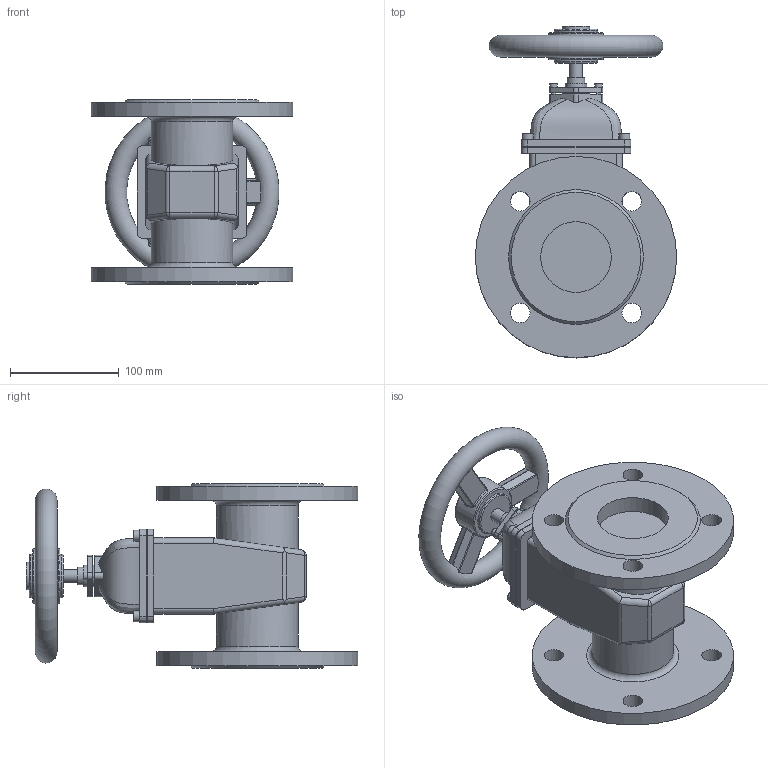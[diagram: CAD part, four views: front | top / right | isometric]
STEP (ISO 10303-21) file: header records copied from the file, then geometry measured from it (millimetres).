
FILE_DESCRIPTION(('STEP AP242'), '1');
FILE_NAME('GVWN1414N-2W-F-S blue Çàäâèæêà êëèíîâàÿ ñ íåâèäâèæíûì øòîêîì DN.ru Äó65 Ðó10-16', '', ('UNSPECIFIED'), ('UNSPECIFIED'), 'C3D Converter', 'C3D Toolkit', '');
FILE_SCHEMA(('AP242_MANAGED_MODEL_BASED_3D_ENGINEERING_MIM_LF { 1 0 10303 442 1 1 4 }'));
Length unit declared in the file: millimetre
Products named in the file (1): GVWN1414N-2W-F-S blue
Bounding box: 185 x 305 x 170 mm (x, y, z)
Volume: 2232510.5 mm3; surface area: 255602.8 mm2
Topology: 1 solids, 1 shells, 339 faces, 862 edges, 547 vertices
Faces by surface type: plane 151, cylinder 88, bspline 38, extrusion 27, torus 19, cone 8, sphere 8
Full cylindrical faces by diameter (mm): 4 x2, 6 x4, 7 x2, 10 x4, 12 x1, 16 x1, 18 x8, 20 x2, 25 x1, 40 x2, 50 x1, 65 x2, 75 x2, 185 x2
Entity records: 21216 total; most frequent: CARTESIAN_POINT 10979, ORIENTED_EDGE 1578, DIRECTION 1280, EDGE_CURVE 789, VERTEX_POINT 538, EDGE_LOOP 457, AXIS2_PLACEMENT_3D 449, VECTOR 382
